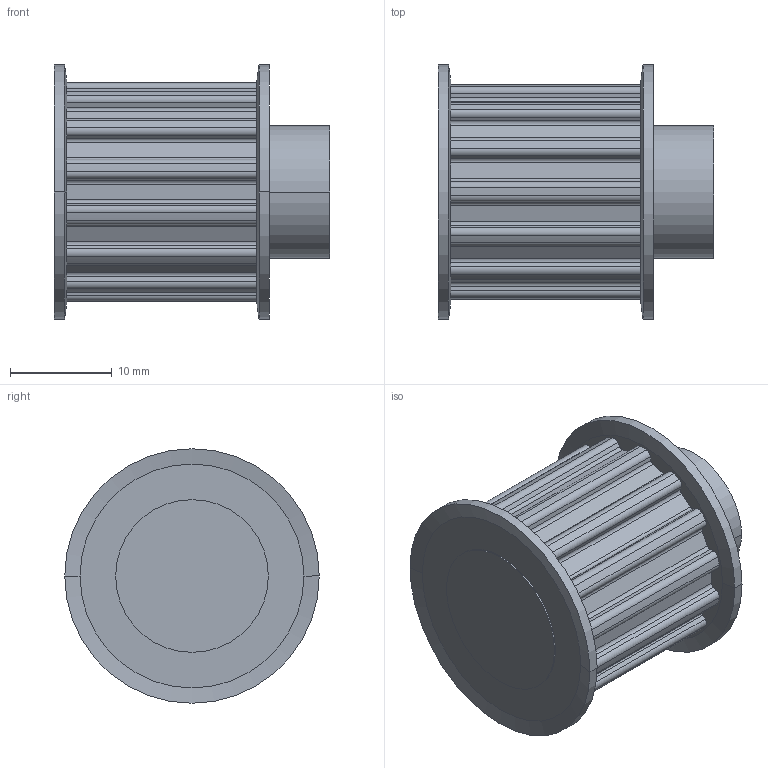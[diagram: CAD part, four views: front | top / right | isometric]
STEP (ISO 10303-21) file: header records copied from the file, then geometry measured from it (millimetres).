
FILE_DESCRIPTION( ( '' ), '1' );
FILE_NAME( 'C:/Users/Stangenbergd/Documents/CAD_Step/1/16231400.stp', '2021-10-19T08:43:34', ( '' ), ( '' ), ' ', ' ', ' ' );
FILE_SCHEMA( ( 'CONFIG_CONTROL_DESIGN' ) );
Length unit declared in the file: millimetre
Products named in the file (1): 1
Bounding box: 27.06 x 25 x 25 mm (x, y, z)
Volume: 7746.8 mm3; surface area: 3305.8 mm2
Topology: 1 solids, 1 shells, 137 faces, 382 edges, 252 vertices
Faces by surface type: cylinder 80, plane 49, cone 8
Entity records: 4504 total; most frequent: DIRECTION 826, CARTESIAN_POINT 772, ORIENTED_EDGE 764, EDGE_CURVE 382, AXIS2_PLACEMENT_3D 306, VERTEX_POINT 252, LINE 214, VECTOR 214
